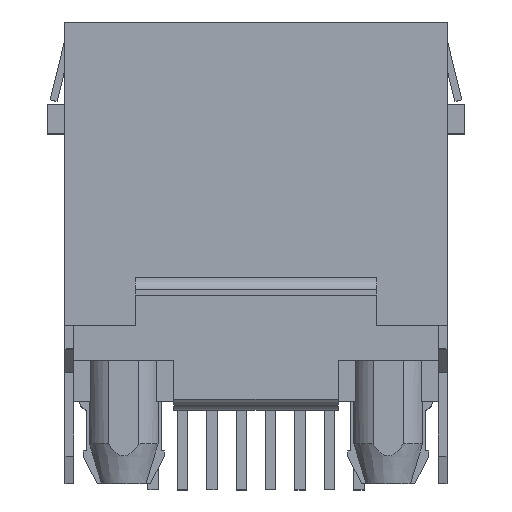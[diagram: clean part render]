
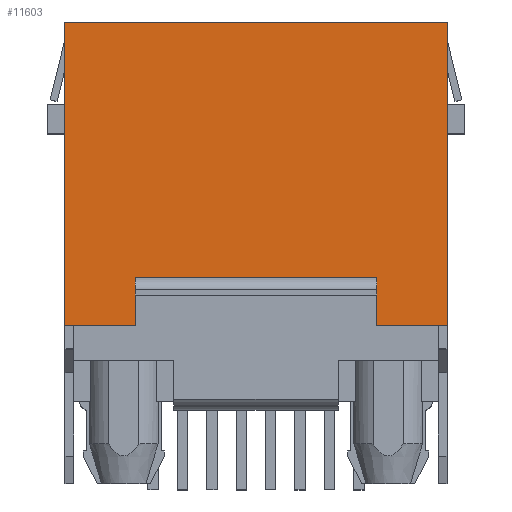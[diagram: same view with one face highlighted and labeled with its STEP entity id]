
A CAD part, top view. The second image highlights one B-rep face of the part: STEP entity #11603.
In plain terms, the highlighted planar face has unit normal (0, 0, 1).
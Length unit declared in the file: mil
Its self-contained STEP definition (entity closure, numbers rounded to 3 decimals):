
#6787 = FACE_OUTER_BOUND ( 'NONE', #11604, .T. ) ;
#6788 = CARTESIAN_POINT ( 'NONE',  ( 380.2, 225.2, 534.2 ) ) ;
#6789 = CARTESIAN_POINT ( 'NONE',  ( -30.2, 225.2, 534.2 ) ) ;
#6790 = DIRECTION ( 'NONE',  ( 1., 0., 0. ) ) ;
#6791 = VECTOR ( 'NONE', #6790, 39370.079 ) ;
#6792 = CARTESIAN_POINT ( 'NONE',  ( 500., 225.2, 534.2 ) ) ;
#6793 = LINE ( 'NONE', #6792, #6791 ) ;
#6807 = DIRECTION ( 'NONE',  ( 1., 0., 0. ) ) ;
#6808 = VECTOR ( 'NONE', #6807, 39370.079 ) ;
#6809 = CARTESIAN_POINT ( 'NONE',  ( -135., 660., 534.2 ) ) ;
#6810 = LINE ( 'NONE', #6809, #6808 ) ;
#6811 = CARTESIAN_POINT ( 'NONE',  ( -150., 660., 534.2 ) ) ;
#6821 = DIRECTION ( 'NONE',  ( 0., -1., 0. ) ) ;
#6822 = DIRECTION ( 'NONE',  ( 0., 0., 1. ) ) ;
#6823 = CARTESIAN_POINT ( 'NONE',  ( 500., 660., 534.2 ) ) ;
#6824 = AXIS2_PLACEMENT_3D ( 'NONE', #6823, #6822, #6821 ) ;
#6825 = PLANE ( 'NONE',  #6824 ) ;
#7216 = DIRECTION ( 'NONE',  ( 0., 1., 0. ) ) ;
#7217 = VECTOR ( 'NONE', #7216, 39370.079 ) ;
#7218 = CARTESIAN_POINT ( 'NONE',  ( 380.2, 660., 534.2 ) ) ;
#7219 = LINE ( 'NONE', #7218, #7217 ) ;
#7220 = DIRECTION ( 'NONE',  ( 1., 0., 0. ) ) ;
#7221 = VECTOR ( 'NONE', #7220, 39370.079 ) ;
#7222 = CARTESIAN_POINT ( 'NONE',  ( 500., 144.2, 534.2 ) ) ;
#7223 = LINE ( 'NONE', #7222, #7221 ) ;
#7285 = CARTESIAN_POINT ( 'NONE',  ( -30.2, 144.2, 534.2 ) ) ;
#7286 = DIRECTION ( 'NONE',  ( 1., 0., 0. ) ) ;
#7287 = VECTOR ( 'NONE', #7286, 39370.079 ) ;
#7288 = CARTESIAN_POINT ( 'NONE',  ( 500., 144.2, 534.2 ) ) ;
#7289 = LINE ( 'NONE', #7288, #7287 ) ;
#7367 = DIRECTION ( 'NONE',  ( 0., -1., 0. ) ) ;
#7368 = VECTOR ( 'NONE', #7367, 39370.079 ) ;
#7369 = CARTESIAN_POINT ( 'NONE',  ( 380.2, 660., 534.2 ) ) ;
#7370 = LINE ( 'NONE', #7369, #7368 ) ;
#7376 = CARTESIAN_POINT ( 'NONE',  ( -150., 144.2, 534.2 ) ) ;
#7377 = DIRECTION ( 'NONE',  ( 0., -1., 0. ) ) ;
#7378 = VECTOR ( 'NONE', #7377, 39370.079 ) ;
#7379 = CARTESIAN_POINT ( 'NONE',  ( -150., 660., 534.2 ) ) ;
#7380 = LINE ( 'NONE', #7379, #7378 ) ;
#7381 = DIRECTION ( 'NONE',  ( 0., 1., 0. ) ) ;
#7382 = VECTOR ( 'NONE', #7381, 39370.079 ) ;
#7383 = CARTESIAN_POINT ( 'NONE',  ( -30.2, 660., 534.2 ) ) ;
#7384 = LINE ( 'NONE', #7383, #7382 ) ;
#7385 = CARTESIAN_POINT ( 'NONE',  ( -30.2, 203.108, 534.2 ) ) ;
#7386 = DIRECTION ( 'NONE',  ( 0., -1., 0. ) ) ;
#7387 = VECTOR ( 'NONE', #7386, 39370.079 ) ;
#7388 = CARTESIAN_POINT ( 'NONE',  ( -30.2, 144.2, 534.2 ) ) ;
#7389 = LINE ( 'NONE', #7388, #7387 ) ;
#7418 = CARTESIAN_POINT ( 'NONE',  ( 380.2, 144.2, 534.2 ) ) ;
#7419 = CARTESIAN_POINT ( 'NONE',  ( 380.2, 203.108, 534.2 ) ) ;
#8624 = VERTEX_POINT ( 'NONE', #13775 ) ;
#8626 = EDGE_CURVE ( 'NONE', #8627, #8624, #13774, .T. ) ;
#8627 = VERTEX_POINT ( 'NONE', #13770 ) ;
#11580 = ORIENTED_EDGE ( 'NONE', *, *, #11826, .T. ) ;
#11599 = ORIENTED_EDGE ( 'NONE', *, *, #11600, .T. ) ;
#11600 = EDGE_CURVE ( 'NONE', #11601, #11602, #6793, .T. ) ;
#11601 = VERTEX_POINT ( 'NONE', #6789 ) ;
#11602 = VERTEX_POINT ( 'NONE', #6788 ) ;
#11603 = ADVANCED_FACE ( 'NONE', ( #6787 ), #6825, .T. ) ;
#11604 = EDGE_LOOP ( 'NONE', ( #11599, #11580, #11783, #11780, #11782, #11842, #11843, #11827, #11800, #11840 ) ) ;
#11611 = VERTEX_POINT ( 'NONE', #6811 ) ;
#11613 = EDGE_CURVE ( 'NONE', #11611, #8624, #6810, .T. ) ;
#11780 = ORIENTED_EDGE ( 'NONE', *, *, #11781, .T. ) ;
#11781 = EDGE_CURVE ( 'NONE', #11852, #8627, #7223, .T. ) ;
#11782 = ORIENTED_EDGE ( 'NONE', *, *, #8626, .T. ) ;
#11783 = ORIENTED_EDGE ( 'NONE', *, *, #11784, .F. ) ;
#11784 = EDGE_CURVE ( 'NONE', #11852, #11851, #7219, .T. ) ;
#11798 = EDGE_CURVE ( 'NONE', #11845, #11799, #7289, .T. ) ;
#11799 = VERTEX_POINT ( 'NONE', #7285 ) ;
#11800 = ORIENTED_EDGE ( 'NONE', *, *, #11838, .F. ) ;
#11826 = EDGE_CURVE ( 'NONE', #11602, #11851, #7370, .T. ) ;
#11827 = ORIENTED_EDGE ( 'NONE', *, *, #11798, .T. ) ;
#11838 = EDGE_CURVE ( 'NONE', #11839, #11799, #7389, .T. ) ;
#11839 = VERTEX_POINT ( 'NONE', #7385 ) ;
#11840 = ORIENTED_EDGE ( 'NONE', *, *, #11841, .T. ) ;
#11841 = EDGE_CURVE ( 'NONE', #11839, #11601, #7384, .T. ) ;
#11842 = ORIENTED_EDGE ( 'NONE', *, *, #11613, .F. ) ;
#11843 = ORIENTED_EDGE ( 'NONE', *, *, #11844, .T. ) ;
#11844 = EDGE_CURVE ( 'NONE', #11611, #11845, #7380, .T. ) ;
#11845 = VERTEX_POINT ( 'NONE', #7376 ) ;
#11851 = VERTEX_POINT ( 'NONE', #7419 ) ;
#11852 = VERTEX_POINT ( 'NONE', #7418 ) ;
#13770 = CARTESIAN_POINT ( 'NONE',  ( 500., 144.2, 534.2 ) ) ;
#13771 = DIRECTION ( 'NONE',  ( 0., 1., 0. ) ) ;
#13772 = VECTOR ( 'NONE', #13771, 39370.079 ) ;
#13773 = CARTESIAN_POINT ( 'NONE',  ( 500., 660., 534.2 ) ) ;
#13774 = LINE ( 'NONE', #13773, #13772 ) ;
#13775 = CARTESIAN_POINT ( 'NONE',  ( 500., 660., 534.2 ) ) ;
